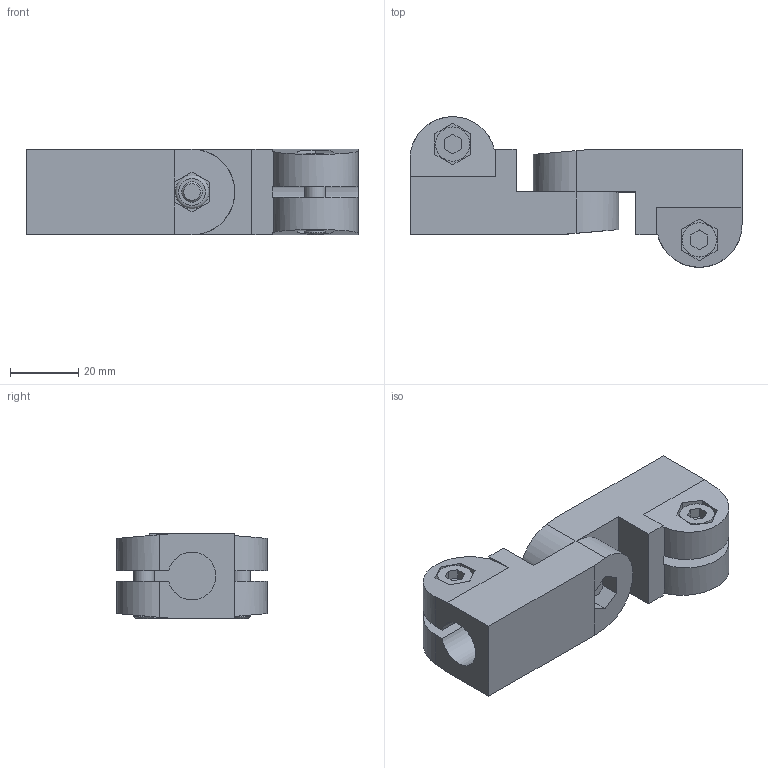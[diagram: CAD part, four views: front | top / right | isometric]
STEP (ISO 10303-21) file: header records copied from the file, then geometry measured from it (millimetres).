
FILE_DESCRIPTION( ( 'STEP AP203' ), '1' );
FILE_NAME( 'C:/Temp/Ganter_Step_05_03_2020/data/3_7/285/Swivel clamp connector joint GN 285-B14-B14-2-SW (0).stp', '2020-03-12T14:32:46', ( 'License CC BY-ND 4.0' ), ( 'CADENAS' ), ' ', 'PARTsolutions', ' ' );
FILE_SCHEMA( ( 'CONFIG_CONTROL_DESIGN' ) );
Length unit declared in the file: millimetre
Products named in the file (5): Swivel clamp connector joint GN 285-B14-B14-2-SW (0); _Swivel clamp connector base GN 285-B14-B14-2-SW-1; _Swivel clamp connector base GN 285-B14-B14-2-SW (0)-2; _Screw GN 285-M6-2; _Nut GN 285-M6-1
Assembly tree (4 placements, depth 2):
  Swivel clamp connector joint GN 285-B14-B14-2-SW (0)
    _Swivel clamp connector base GN 285-B14-B14-2-SW-1
    _Swivel clamp connector base GN 285-B14-B14-2-SW (0)-2
    _Screw GN 285-M6-2
    _Nut GN 285-M6-1
Bounding box: 97 x 44 x 25 mm (x, y, z)
Volume: 52426.5 mm3; surface area: 20747.6 mm2
Topology: 4 solids, 4 shells, 160 faces, 394 edges, 260 vertices
Faces by surface type: plane 126, cylinder 24, cone 8, torus 2
Full cylindrical faces by diameter (mm): 4.917 x1, 6 x5, 6.5 x2, 7 x4, 9.84 x1, 10 x3
Entity records: 4738 total; most frequent: CARTESIAN_POINT 886, DIRECTION 734, ORIENTED_EDGE 720, EDGE_CURVE 360, LINE 292, VECTOR 292, VERTEX_POINT 253, AXIS2_PLACEMENT_3D 221
